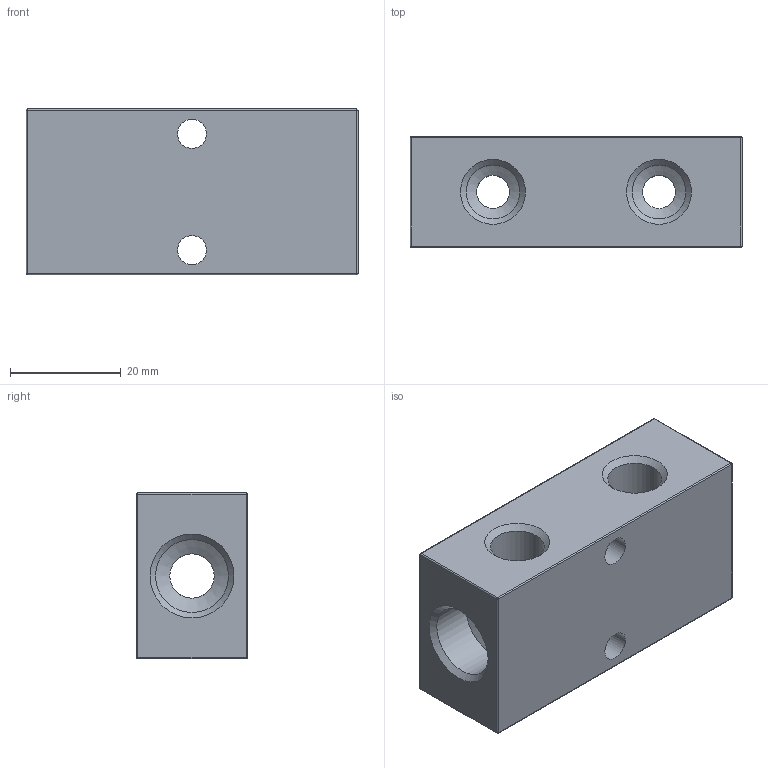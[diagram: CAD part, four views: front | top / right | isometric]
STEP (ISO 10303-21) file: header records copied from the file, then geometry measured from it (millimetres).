
FILE_DESCRIPTION(/* description */ (''),/* implementation_level */ '2;1');
FILE_NAME(/* name */ 'S:\_Tecnico\ArchivioUT\_Disegni3D ingombri\DISEGNI 3D per ingombri\RL\RL5241822.stp',/* time_stamp */ '2020-02-20T11:22:09+01:00',/* author */ ('UfficioTecnico'),/* organization */ (''),/* preprocessor_version */ 'ST-DEVELOPER v18',/* originating_system */ 'Autodesk Inventor 2020',/* authorisation */ '');
FILE_SCHEMA (('AUTOMOTIVE_DESIGN { 1 0 10303 214 3 1 1 }'));
Length unit declared in the file: millimetre
Products named in the file (1): RL5141802
Bounding box: 60 x 20 x 30 mm (x, y, z)
Volume: 27416 mm3; surface area: 10264.7 mm2
Topology: 1 solids, 1 shells, 51 faces, 123 edges, 74 vertices
Faces by surface type: cylinder 25, cone 12, sphere 8, plane 6
Full cylindrical faces by diameter (mm): 5.25 x2, 6 x4, 8 x1, 9.728 x4, 13.157 x2
Entity records: 1712 total; most frequent: CARTESIAN_POINT 417, DIRECTION 285, ORIENTED_EDGE 246, EDGE_CURVE 123, AXIS2_PLACEMENT_3D 118, VERTEX_POINT 74, CIRCLE 66, EDGE_LOOP 65
